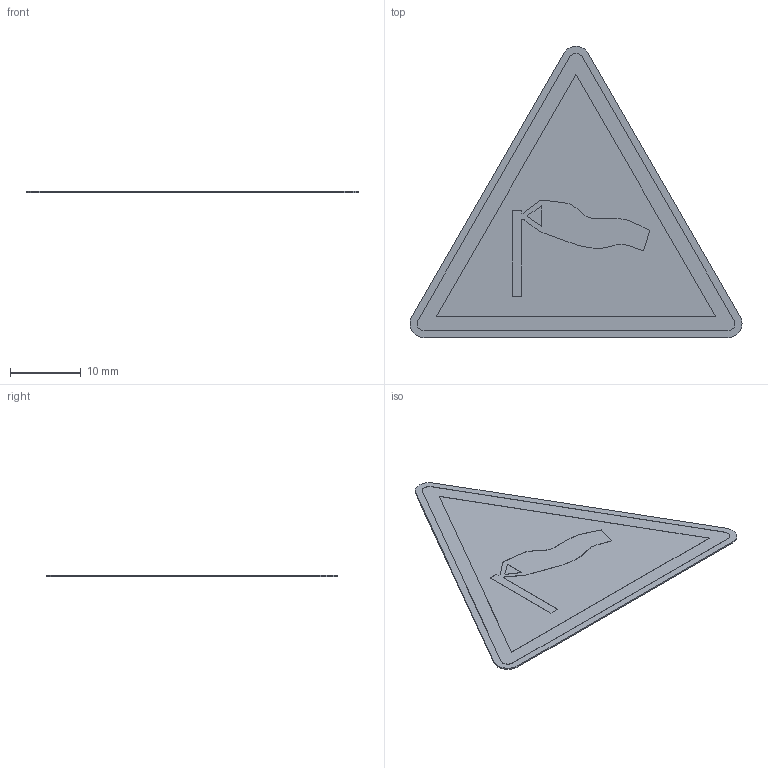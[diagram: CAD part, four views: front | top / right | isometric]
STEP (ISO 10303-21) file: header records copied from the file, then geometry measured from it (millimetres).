
FILE_DESCRIPTION (( 'STEP AP214' ), '1' );
FILE_NAME ('W064_Warnung vor starkem Wind.STEP', '2022-03-05T05:30:36', ( '' ), ( '' ), 'SwSTEP 2.0', 'SolidWorks 2021', '' );
FILE_SCHEMA (( 'AUTOMOTIVE_DESIGN' ));
Length unit declared in the file: millimetre
Products named in the file (1): W064_Warnung vor starkem Wind
Bounding box: 47.07 x 41.3 x 0.22 mm (x, y, z)
Volume: 221.7 mm3; surface area: 2183.6 mm2
Topology: 1 solids, 1 shells, 70 faces, 192 edges, 128 vertices
Faces by surface type: plane 61, cylinder 9
Entity records: 2877 total; most frequent: CARTESIAN_POINT 391, ORIENTED_EDGE 384, DIRECTION 352, EDGE_CURVE 192, LINE 174, VECTOR 174, VERTEX_POINT 128, AXIS2_PLACEMENT_3D 89
